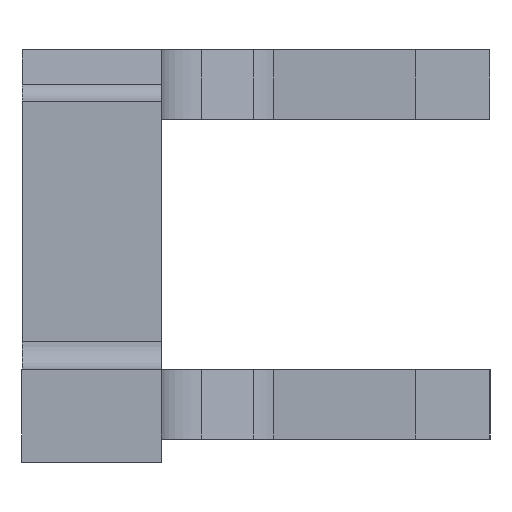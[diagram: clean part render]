
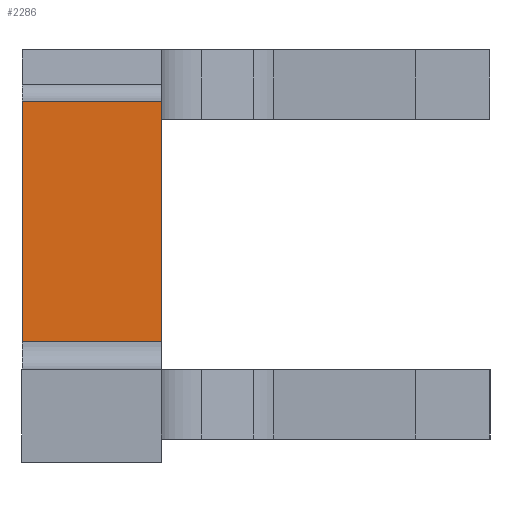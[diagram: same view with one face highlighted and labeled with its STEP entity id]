
A CAD part, left-side view. The second image highlights one B-rep face of the part: STEP entity #2286.
In plain terms, the highlighted planar face has unit normal (-1, 0, 0).
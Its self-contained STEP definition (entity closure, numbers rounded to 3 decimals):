
#1023=CARTESIAN_POINT('',(-76.338,53.375,-8.144));
#1024=VERTEX_POINT('',#1023);
#1032=CARTESIAN_POINT('',(-76.338,53.375,-60.));
#1033=VERTEX_POINT('',#1032);
#1034=CARTESIAN_POINT('',(-76.338,53.375,-8.144));
#1035=DIRECTION('',(0.0,0.0,-1.0));
#1036=VECTOR('',#1035,51.856);
#1037=LINE('',#1034,#1036);
#1038=EDGE_CURVE('',#1024,#1033,#1037,.T.);
#2146=CARTESIAN_POINT('',(-76.338,83.375,-60.));
#2147=VERTEX_POINT('',#2146);
#2155=CARTESIAN_POINT('',(-76.338,83.375,-8.144));
#2156=VERTEX_POINT('',#2155);
#2157=CARTESIAN_POINT('',(-76.338,83.375,-60.));
#2158=DIRECTION('',(0.0,0.0,1.0));
#2159=VECTOR('',#2158,51.856);
#2160=LINE('',#2157,#2159);
#2161=EDGE_CURVE('',#2147,#2156,#2160,.T.);
#2261=CARTESIAN_POINT('',(-76.338,83.375,-8.144));
#2262=DIRECTION('',(0.0,-1.0,0.0));
#2263=VECTOR('',#2262,30.);
#2264=LINE('',#2261,#2263);
#2265=EDGE_CURVE('',#2156,#1024,#2264,.T.);
#2270=CARTESIAN_POINT('',(-76.338,83.375,-8.144));
#2271=DIRECTION('',(1.0,0.0,0.0));
#2272=DIRECTION('',(0.0,0.0,-1.0));
#2273=AXIS2_PLACEMENT_3D('',#2270,#2271,#2272);
#2274=PLANE('',#2273);
#2275=ORIENTED_EDGE('',*,*,#1038,.F.);
#2276=ORIENTED_EDGE('',*,*,#2265,.F.);
#2277=ORIENTED_EDGE('',*,*,#2161,.F.);
#2278=CARTESIAN_POINT('',(-76.338,83.375,-60.));
#2279=DIRECTION('',(0.0,-1.0,0.0));
#2280=VECTOR('',#2279,30.);
#2281=LINE('',#2278,#2280);
#2282=EDGE_CURVE('',#2147,#1033,#2281,.T.);
#2283=ORIENTED_EDGE('',*,*,#2282,.T.);
#2284=EDGE_LOOP('',(#2275,#2276,#2277,#2283));
#2285=FACE_OUTER_BOUND('',#2284,.T.);
#2286=ADVANCED_FACE('',(#2285),#2274,.F.);
